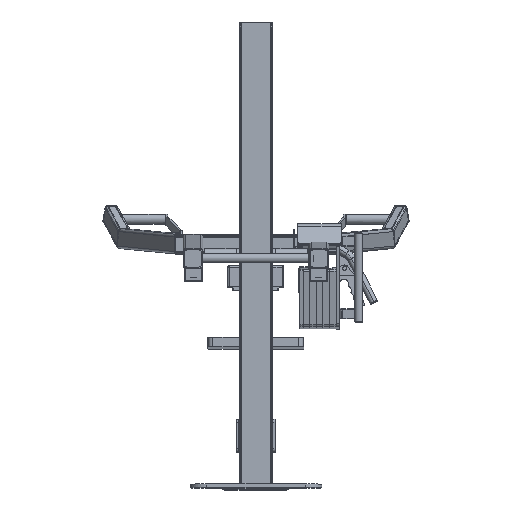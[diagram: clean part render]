
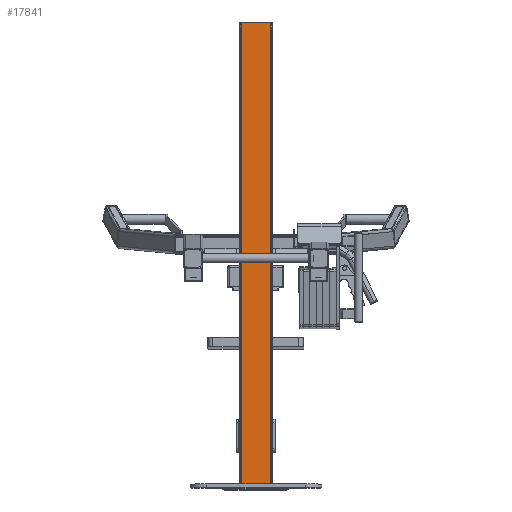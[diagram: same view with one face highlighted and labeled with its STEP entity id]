
A CAD part, top view. The second image highlights one B-rep face of the part: STEP entity #17841.
In plain terms, the highlighted planar face has unit normal (0, 0.004, 1).
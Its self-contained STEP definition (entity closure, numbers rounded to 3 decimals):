
#900=PLANE('',#19416);
#1725=FACE_OUTER_BOUND('',#2827,.T.);
#2827=EDGE_LOOP('',(#14456,#14457,#14458,#14459));
#4242=LINE('',#29206,#5854);
#4245=LINE('',#29221,#5857);
#4250=LINE('',#29229,#5862);
#4267=LINE('',#29279,#5879);
#5854=VECTOR('',#23250,10.);
#5857=VECTOR('',#23263,10.);
#5862=VECTOR('',#23272,10.);
#5879=VECTOR('',#23323,10.);
#8229=VERTEX_POINT('',#29200);
#8231=VERTEX_POINT('',#29204);
#8236=VERTEX_POINT('',#29217);
#8238=VERTEX_POINT('',#29220);
#10402=EDGE_CURVE('',#8229,#8231,#4242,.T.);
#10408=EDGE_CURVE('',#8236,#8238,#4245,.T.);
#10414=EDGE_CURVE('',#8236,#8229,#4250,.T.);
#10439=EDGE_CURVE('',#8238,#8231,#4267,.T.);
#14456=ORIENTED_EDGE('',*,*,#10414,.T.);
#14457=ORIENTED_EDGE('',*,*,#10402,.T.);
#14458=ORIENTED_EDGE('',*,*,#10439,.F.);
#14459=ORIENTED_EDGE('',*,*,#10408,.F.);
#17841=ADVANCED_FACE('',(#1725),#900,.T.);
#19416=AXIS2_PLACEMENT_3D('',#29278,#23321,#23322);
#23250=DIRECTION('',(0.,-1.,0.004));
#23263=DIRECTION('',(0.,-1.,0.004));
#23272=DIRECTION('',(-1.,0.,0.));
#23321=DIRECTION('center_axis',(0.,0.004,
1.));
#23322=DIRECTION('ref_axis',(1.,0.,0.));
#23323=DIRECTION('',(-1.,0.,0.));
#29200=CARTESIAN_POINT('',(156.,1408.217,-153.158));
#29204=CARTESIAN_POINT('',(156.,8.231,-146.879));
#29206=CARTESIAN_POINT('',(156.,1408.217,-153.158));
#29217=CARTESIAN_POINT('',(244.,1408.217,-153.158));
#29220=CARTESIAN_POINT('',(244.,8.231,-146.879));
#29221=CARTESIAN_POINT('',(244.,1408.217,-153.158));
#29229=CARTESIAN_POINT('',(135.806,1408.217,-153.158));
#29278=CARTESIAN_POINT('Origin',(85.6,-66.168,-146.545));
#29279=CARTESIAN_POINT('',(156.,8.231,-146.879));
